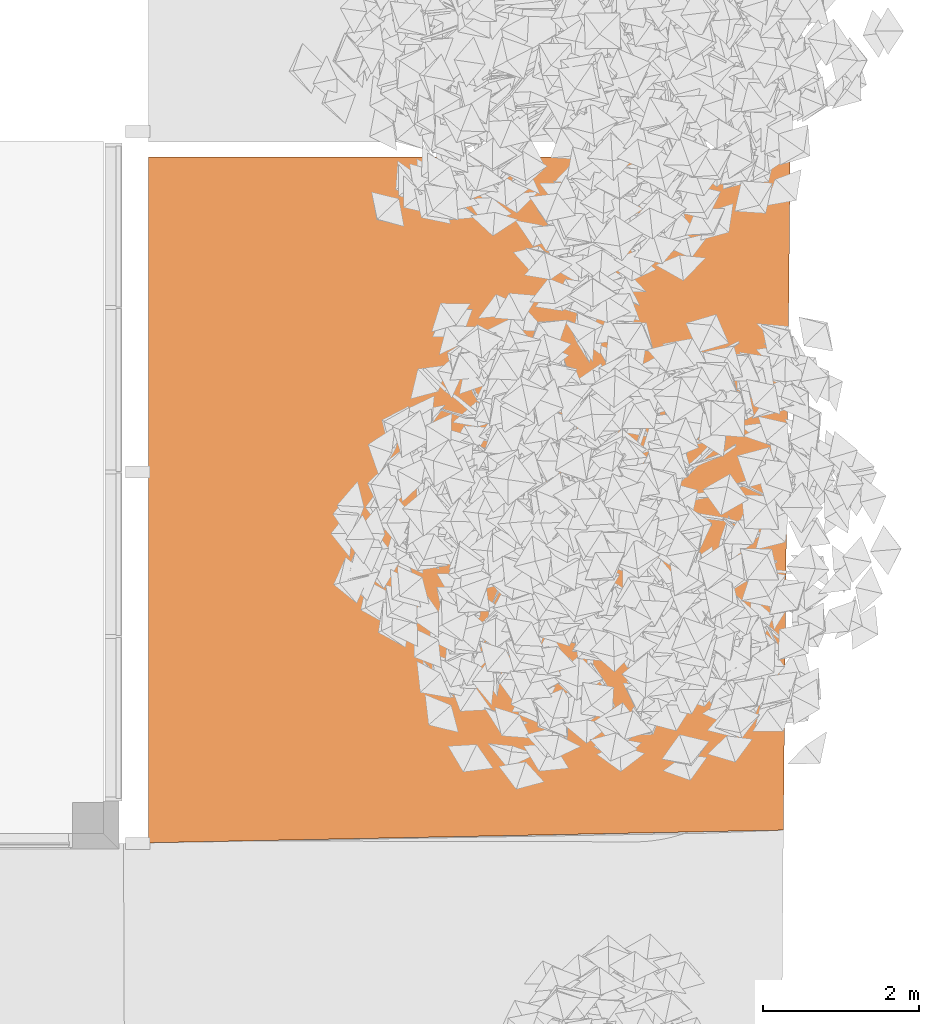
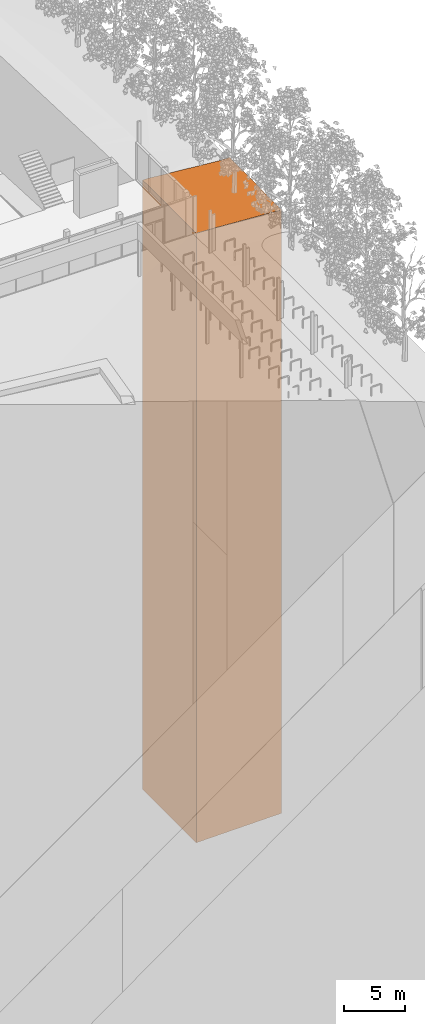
# One storey, part 57 of 69: 1 proxy.
"""IFC2X3 building model written with IfcOpenShell, lengths in millimetres."""

from ifc_helpers import new_model, entity, si_unit, converted_unit, derived_unit, money_unit, direction, frame, origin_with_axes, place, context, subcontext, project, spatial, faceted_brep, material, type_object, element, save


model = new_model("IFC2X3")

# Units and contexts
model_context = context("Model", 3, precision=0.01, world=origin_with_axes(), true_north=direction((0.0, 1.0)))
body_context = subcontext(model_context, "Body", "Model", "MODEL_VIEW")
ifc_project = project(units=[si_unit("LENGTHUNIT", "METRE", prefix="MILLI"), si_unit("AREAUNIT", "SQUARE_METRE"), si_unit("VOLUMEUNIT", "CUBIC_METRE"), converted_unit("PLANEANGLEUNIT", "DEGREE", entity("IfcPlaneAngleMeasure", 0.0174532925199), si_unit("PLANEANGLEUNIT", "RADIAN"), dimensions=[0, 0, 0, 0, 0, 0, 0]), si_unit("SOLIDANGLEUNIT", "STERADIAN"), money_unit("EUR"), converted_unit("TIMEUNIT", "Year", entity("IfcTimeMeasure", 31556926.0), si_unit("TIMEUNIT", "SECOND"), dimensions=[0, 0, 1, 0, 0, 0, 0]), si_unit("MASSUNIT", "GRAM", prefix="KILO"), si_unit("THERMODYNAMICTEMPERATUREUNIT", "DEGREE_CELSIUS"), si_unit("LUMINOUSINTENSITYUNIT", "LUMEN"), si_unit("ENERGYUNIT", "JOULE", prefix="MEGA"), derived_unit("THERMALCONDUCTANCEUNIT", [(si_unit("POWERUNIT", "WATT"), 1), (si_unit("LENGTHUNIT", "METRE"), -1), (si_unit("THERMODYNAMICTEMPERATUREUNIT", "KELVIN"), -1)]), derived_unit("SPECIFICHEATCAPACITYUNIT", [(si_unit("ENERGYUNIT", "JOULE"), 1), (si_unit("MASSUNIT", "GRAM", prefix="KILO"), -1), (si_unit("THERMODYNAMICTEMPERATUREUNIT", "KELVIN"), -1)]), derived_unit("MASSDENSITYUNIT", [(si_unit("MASSUNIT", "GRAM", prefix="KILO"), 1), (si_unit("VOLUMEUNIT", "CUBIC_METRE"), -1)])], contexts=[model_context])

# Site, building, storey
site_placement = place(None, origin_with_axes())
site = spatial("IfcSite", under=ifc_project, at=site_placement, Name="Puškini 31, Narva", CompositionType="ELEMENT")
building_placement = place(site_placement, origin_with_axes())
building = spatial("IfcBuilding", under=site, at=building_placement, Name="Narva Riigigümnaasium", CompositionType="ELEMENT")
storey_placement = place(building_placement, origin_with_axes())
storey = spatial("IfcBuildingStorey", under=building, at=storey_placement, Name="1.korrus 0.00", CompositionType="ELEMENT", Elevation=0.0)

# Proxy
ifc_material = material(Name="Roheala")
building_element_proxy_type = type_object("IfcBuildingElementProxyType", Name="Roheala", PredefinedType="NOTDEFINED")
proxy_placement = place(storey_placement, frame((54780.0000017, 149981.922507, -61100.0), z_axis=(0.0, 0.0, 1.0), x_axis=(1.0, 0.0, 0.0)))
element("IfcBuildingElementProxy", 1, at=proxy_placement, inside=storey, type_object=building_element_proxy_type, material=ifc_material, Name="Roheala", context=body_context, shape_type="Brep", body=[
    faceted_brep([(1749.66350277, 6821.81702524, 60900.0), (3032.74630669, 5490.16108531, 60800.0), (2632.68581105, 8810.61763709, 60800.0), (6886.98284162, 156.199222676, 60500.0), (5608.88816062, 148.861117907, 60600.0), (5598.91191477, 2826.84920636, 60600.0), (4315.82911085, 4158.50514629, 60700.0), (4330.79347962, 141.523014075, 60700.0), (3052.69879862, 134.184909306, 60800.0), (1774.94424808, 35.5500899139, 60900.0), (8165.07754133, 163.537376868, 60400.0), (6881.9947187, 1495.19326643, 60500.0), (3711.26778674, 8816.91104095, 60703.9621676), (2597.86684997, 8816.91104095, 60803.1142503), (1535.63670618, 8816.91104095, 60900.0), (4878.80302228, 8803.6709983, 60600.0), (466.580698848, 8153.47296517, 61000.0), (496.509436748, 119.508701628, 61000.0), (8165.07754133, 163.537376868, 0.0), (0.0, 0.0, 61000.0), (0.0, 0.0, 0.0), (7124.92023351, 8796.7243595, 60400.0), (6001.86162789, 8800.1976789, 60500.0), (2632.69946093, 8816.91104095, 60799.9999971), (3755.74441666, 8807.14431769, 60700.0), (0.0, 8816.91104095, 0.0), (0.0, 8816.91104095, 61000.0), (405.510140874, 8816.91104095, 61000.0), (1275.81578294, 8816.91104095, 60922.7867694), (3757.51949361, 8816.91104095, 60699.9999963), (4821.81588742, 8816.91104095, 60605.2855707), (4936.17843179, 8816.91104095, 60594.7347693), (5999.67483855, 8816.91104095, 60500.0000053), (6076.52483501, 8816.91104095, 60493.4511204), (7126.24935096, 8816.91104095, 60400.0000048), (8253.04905271, 8816.91104095, 60400.0), (8253.04905271, 8816.91104095, 0.0)], [[[0, 1, 2]], [[3, 4, 5, 6, 7, 8, 1, 0, 9, 10, 11]], [[12, 2, 1]], [[0, 2, 13, 14]], [[4, 3, 11, 5]], [[6, 5, 15]], [[8, 7, 6, 1]], [[0, 16, 17, 9]], [[18, 10, 9, 19, 20]], [[11, 10, 21, 22]], [[23, 2, 12]], [[24, 12, 1]], [[23, 13, 2]], [[25, 26, 27, 28, 14, 13, 23, 12, 29, 30, 31, 32, 33, 34, 35, 36]], [[28, 16, 0, 14]], [[22, 15, 5, 11]], [[15, 30, 6]], [[1, 6, 24]], [[27, 26, 19, 17, 16]], [[9, 17, 19]], [[36, 35, 10, 18]], [[20, 19, 26, 25]], [[20, 25, 36, 18]], [[35, 34, 21, 10]], [[22, 21, 34, 33]], [[29, 12, 24]], [[28, 27, 16]], [[30, 29, 24]], [[30, 15, 31]], [[15, 22, 32, 31]], [[32, 22, 33]], [[30, 24, 6]]]),
])

save(model, "model.ifc")
